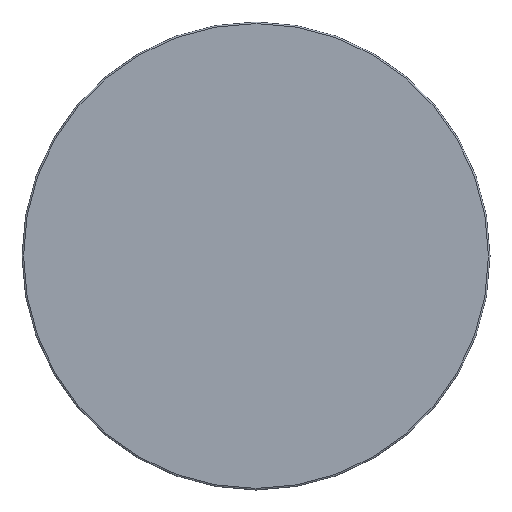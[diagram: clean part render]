
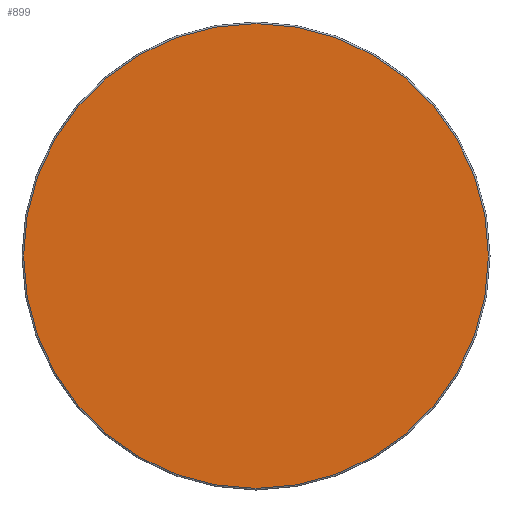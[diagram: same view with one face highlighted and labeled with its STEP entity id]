
A CAD part, left-side view. The second image highlights one B-rep face of the part: STEP entity #899.
In plain terms, the highlighted planar face has unit normal (-1, 0, 0).
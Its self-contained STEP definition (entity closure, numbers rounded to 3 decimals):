
#876=CARTESIAN_POINT('',(0.0,149.0,0.0));
#877=VERTEX_POINT('',#876);
#878=CARTESIAN_POINT('',(0.0,0.0,0.0));
#879=DIRECTION('',(1.0,0.0,0.0));
#880=DIRECTION('',(0.0,-1.0,0.0));
#881=AXIS2_PLACEMENT_3D('',#878,#879,#880);
#882=CIRCLE('',#881,149.0);
#883=EDGE_CURVE('',#877,#877,#882,.T.);
#891=CARTESIAN_POINT('',(0.0,132.819,0.));
#892=DIRECTION('',(-1.0,0.0,0.0));
#893=DIRECTION('',(0.0,0.0,1.0));
#894=AXIS2_PLACEMENT_3D('',#891,#892,#893);
#895=PLANE('',#894);
#896=ORIENTED_EDGE('',*,*,#883,.F.);
#897=EDGE_LOOP('',(#896));
#898=FACE_OUTER_BOUND('',#897,.T.);
#899=ADVANCED_FACE('',(#898),#895,.T.);
